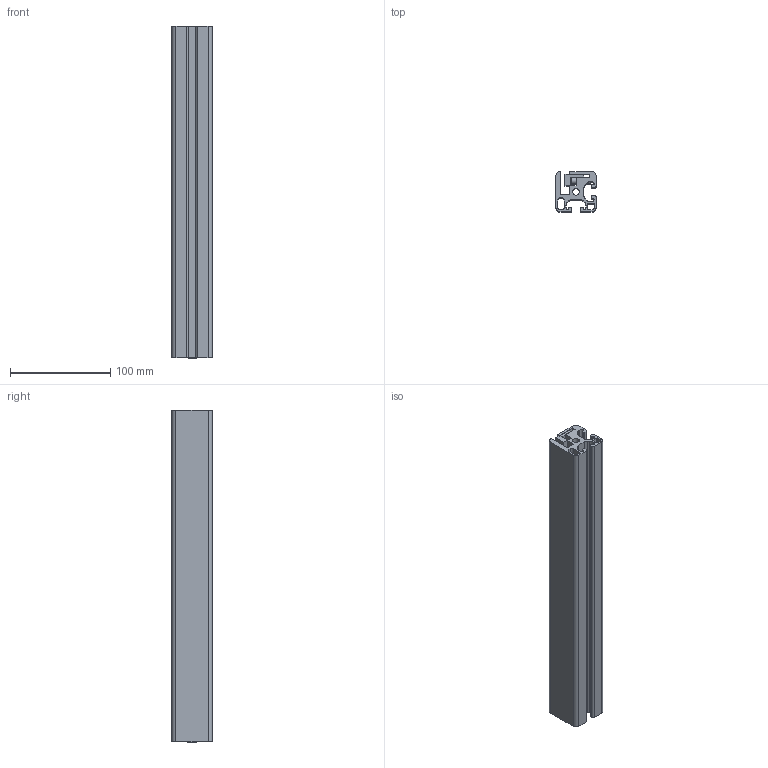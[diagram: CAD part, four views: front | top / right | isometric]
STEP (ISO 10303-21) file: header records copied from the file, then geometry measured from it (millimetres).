
FILE_DESCRIPTION((''),'2;1');
FILE_NAME('KLEA084040','2024-11-05T14:14:20',('kubovskyd'),(''),'CREO PARAMETRIC BY PTC INC, 2022364','CREO PARAMETRIC BY PTC INC, 2022364','');
FILE_SCHEMA(('AP203_CONFIGURATION_CONTROLLED_3D_DESIGN_OF_MECHANICAL_PARTS_AND_ASSEMBLIES_MIM_LF { 1 0 10303 403 2 1 2 }'));
Length unit declared in the file: millimetre
Products named in the file (1): KLEA084040
Bounding box: 40 x 40 x 331.17 mm (x, y, z)
Volume: 280740.2 mm3; surface area: 159934.4 mm2
Topology: 4 solids, 8 shells, 170 faces, 488 edges, 322 vertices
Faces by surface type: plane 86, cylinder 64, cone 16, bspline 4
Entity records: 7323 total; most frequent: CARTESIAN_POINT 1483, DIRECTION 979, ORIENTED_EDGE 944, EDGE_CURVE 480, AXIS2_PLACEMENT_3D 330, VECTOR 316, LINE 316, VERTEX_POINT 314
